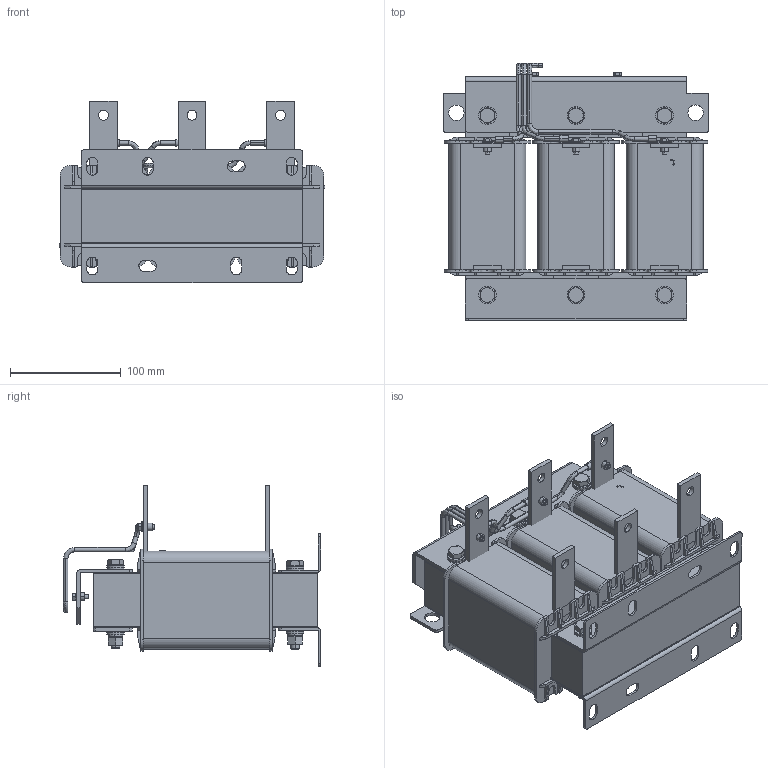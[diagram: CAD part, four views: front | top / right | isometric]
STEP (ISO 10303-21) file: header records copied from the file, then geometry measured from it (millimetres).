
FILE_DESCRIPTION (( 'STEP AP203' ), '1' );
FILE_NAME ('婰錪襝 dU_dT _ IDUDT-45_62-6.STEP', '2026-05-06T06:59:13', ( '' ), ( '' ), 'SwSTEP 2.0', 'SolidWorks 2021', '' );
FILE_SCHEMA (( 'CONFIG_CONTROL_DESIGN' ));
Length unit declared in the file: millimetre
Products named in the file (78): DVT-线圈-37kW; DVT-线圈-37kW_40; DVT-线圈-37kW_19; DVT-线圈-37kW_23; DVT-线圈-37kW_4; DVT-线圈-37kW_15; 电容引线-37kW_1; DVT-线圈-37kW_2; DVT-线圈-37kW_22; M8ﾂﾝﾄｸ+ｵｯ+ﾋｫﾆｽ_5; DVT-线圈-37kW_32; M8℅75蹟裝; 嶺啣沭40-202; DVT-线圈-37kW_6; DVT-线圈-37kW_1; DVT-线圈-37kW_42; DVT-线圈-37kW_49; DVT-线圈-37kW_31; DVT-线圈-37kW_25; DVT-线圈-37kW_29; DVT-线圈-37kW_9; DVT-线圈-37kW_44; DVT-线圈-37kW_24; DVT-线圈-37kW_20; ﾉﾏｼﾐｼ220｡ﾁ35｡ﾁ3; DVT-线圈-37kW_8; 下夹件-200×38×35-通; DVT-线圈-37kW_37; M8ﾂﾝﾄｸ+ｵｯ+ﾋｫﾆｽ_1; DVT-内出线排25×4-76; DVT-线圈-37kW_26; DVT-线圈-37kW_39; DVT-线圈-37kW_12; DVT-线圈-37kW_33; DVT-线圈-37kW_47; DVT-线圈-37kW_16; 婰錪襝 dU_dT _ IDUDT-45_62-6; DVT-线圈-37kW_43; DVT-线圈-37kW_3; M8ﾂﾝﾄｸ+ｵｯ+ﾋｫﾆｽ_2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
Assembly tree (132 placements, depth 3):
  婰錪襝 dU_dT _ IDUDT-45_62-6
    三相铁芯200-40-50-H202
    嶺啣沭40-202  x6
    ﾉﾏｼﾐｼ220｡ﾁ35｡ﾁ3
    下夹件-200×38×35-通  x2
    plain washers--product grade c gb_GB_FASTENER_WASHER_SMWC 8  x12
    M8℅75蹟裝  x6
    M8ﾂﾝﾄｸ+ｵｯ+ﾋｫﾆｽ
      hex nut-fine pitch-style washer-grade ab gb_GB_HEXAGON_TYPE10_1 M8X1-N
      spring lock washers--normal type gb_GB_FASTENER_WASHER_SW 8
      plain washers--product grade c gb_GB_FASTENER_WASHER_SMWC 8  x2
    M8ﾂﾝﾄｸ+ｵｯ+ﾋｫﾆｽ_1
      hex nut-fine pitch-style washer-grade ab gb_GB_HEXAGON_TYPE10_1 M8X1-N
      spring lock washers--normal type gb_GB_FASTENER_WASHER_SW 8
      plain washers--product grade c gb_GB_FASTENER_WASHER_SMWC 8  x2
    DVT-外出线排25×4-76  x3
    M8ﾂﾝﾄｸ+ｵｯ+ﾋｫﾆｽ_2
      hex nut-fine pitch-style washer-grade ab gb_GB_HEXAGON_TYPE10_1 M8X1-N
      spring lock washers--normal type gb_GB_FASTENER_WASHER_SW 8
      plain washers--product grade c gb_GB_FASTENER_WASHER_SMWC 8  x2
    M8ﾂﾝﾄｸ+ｵｯ+ﾋｫﾆｽ_3
      hex nut-fine pitch-style washer-grade ab gb_GB_HEXAGON_TYPE10_1 M8X1-N
      spring lock washers--normal type gb_GB_FASTENER_WASHER_SW 8
      plain washers--product grade c gb_GB_FASTENER_WASHER_SMWC 8  x2
    M8ﾂﾝﾄｸ+ｵｯ+ﾋｫﾆｽ_4
      hex nut-fine pitch-style washer-grade ab gb_GB_HEXAGON_TYPE10_1 M8X1-N
      spring lock washers--normal type gb_GB_FASTENER_WASHER_SW 8
      plain washers--product grade c gb_GB_FASTENER_WASHER_SMWC 8  x2
    M8ﾂﾝﾄｸ+ｵｯ+ﾋｫﾆｽ_5
      hex nut-fine pitch-style washer-grade ab gb_GB_HEXAGON_TYPE10_1 M8X1-N
      spring lock washers--normal type gb_GB_FASTENER_WASHER_SW 8
      plain washers--product grade c gb_GB_FASTENER_WASHER_SMWC 8  x2
    奻標璃-SKS-1044.404-LJ-A0
    M4℅12坋趼鞠褒芛蹟邡  x5
    DVT-内出线排25×4-76  x3
    RNB1.25-4
    M4す菜  x3
    RNB3.5-4  x2
    电容引线-37kW
      电容引线-37kW_1
      电容引线-37kW_2
      电容引线-37kW
    DVT-线圈-37kW
      DVT-线圈-37kW_3
      DVT-线圈-37kW_36
      DVT-线圈-37kW_35
      DVT-线圈-37kW_34
      DVT-线圈-37kW_43
      DVT-线圈-37kW_14
      DVT-线圈-37kW_44
      DVT-线圈-37kW_48
      DVT-线圈-37kW_11
      DVT-线圈-37kW_18
      DVT-线圈-37kW
      DVT-线圈-37kW_31
      DVT-线圈-37kW_2
      DVT-线圈-37kW_47
      DVT-线圈-37kW_12
      DVT-线圈-37kW_38
      DVT-线圈-37kW_28
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Bounding box: 240 x 232 x 163.5 mm (x, y, z)
Volume: 3174363.8 mm3; surface area: 660450.2 mm2
Topology: 133 solids, 133 shells, 1934 faces, 4760 edges, 3133 vertices
Faces by surface type: plane 1153, cylinder 571, cone 166, bspline 44
Entity records: 48707 total; most frequent: CARTESIAN_POINT 8085, DIRECTION 6548, ORIENTED_EDGE 6274, EDGE_CURVE 3137, VECTOR 2270, LINE 2270, AXIS2_PLACEMENT_3D 2139, VERTEX_POINT 2087
